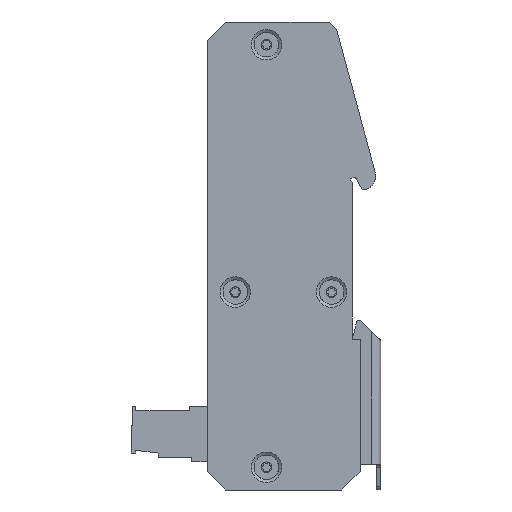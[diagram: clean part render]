
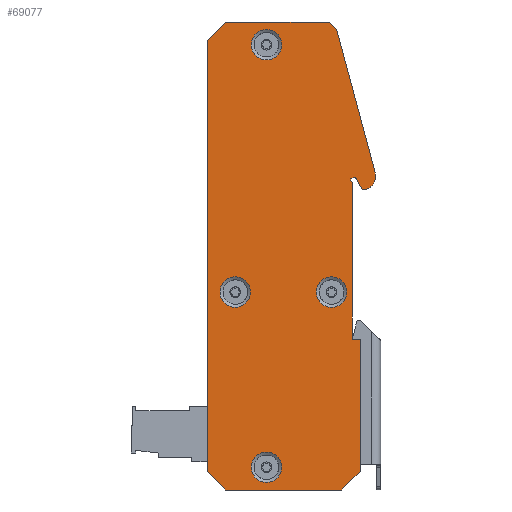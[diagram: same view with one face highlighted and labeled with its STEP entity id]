
A CAD part, left-side view. The second image highlights one B-rep face of the part: STEP entity #69077.
In plain terms, the highlighted planar face has unit normal (-1, 0, 0).
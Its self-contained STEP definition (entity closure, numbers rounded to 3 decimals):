
#68887=CARTESIAN_POINT('',(-29.,0.75,0.));
#68888=DIRECTION('',(-1.,0.,0.));
#68889=DIRECTION('',(-0.,-1.,0.));
#68890=AXIS2_PLACEMENT_3D('',#68887,#68888,#68889);
#68891=PLANE('',#68890);
#68892=CARTESIAN_POINT('',(-29.,4.6,50.825));
#68893=VERTEX_POINT('',#68892);
#68894=CARTESIAN_POINT('',(-29.,4.6,47.4));
#68895=DIRECTION('',(1.,-0.,0.));
#68896=DIRECTION('',(0.,0.,1.));
#68897=AXIS2_PLACEMENT_3D('',#68894,#68895,#68896);
#68898=CIRCLE('',#68897,3.425);
#68899=EDGE_CURVE('',#68893,#68893,#68898,.T.);
#68900=ORIENTED_EDGE('',*,*,#68899,.T.);
#68901=EDGE_LOOP('',(#68900));
#68902=FACE_BOUND('',#68901,.T.);
#68903=CARTESIAN_POINT('',(-29.,-10.,-4.675));
#68904=VERTEX_POINT('',#68903);
#68905=CARTESIAN_POINT('',(-29.,-10.,-8.1));
#68906=DIRECTION('',(1.,-0.,0.));
#68907=DIRECTION('',(0.,0.,1.));
#68908=AXIS2_PLACEMENT_3D('',#68905,#68906,#68907);
#68909=CIRCLE('',#68908,3.425);
#68910=EDGE_CURVE('',#68904,#68904,#68909,.T.);
#68911=ORIENTED_EDGE('',*,*,#68910,.T.);
#68912=EDGE_LOOP('',(#68911));
#68913=FACE_BOUND('',#68912,.T.);
#68914=CARTESIAN_POINT('',(-29.,4.6,-43.975));
#68915=VERTEX_POINT('',#68914);
#68916=CARTESIAN_POINT('',(-29.,4.6,-47.4));
#68917=DIRECTION('',(1.,-0.,0.));
#68918=DIRECTION('',(0.,0.,1.));
#68919=AXIS2_PLACEMENT_3D('',#68916,#68917,#68918);
#68920=CIRCLE('',#68919,3.425);
#68921=EDGE_CURVE('',#68915,#68915,#68920,.T.);
#68922=ORIENTED_EDGE('',*,*,#68921,.T.);
#68923=EDGE_LOOP('',(#68922));
#68924=FACE_BOUND('',#68923,.T.);
#68925=CARTESIAN_POINT('',(-29.,11.6,-4.675));
#68926=VERTEX_POINT('',#68925);
#68927=CARTESIAN_POINT('',(-29.,11.6,-8.1));
#68928=DIRECTION('',(1.,-0.,0.));
#68929=DIRECTION('',(0.,0.,1.));
#68930=AXIS2_PLACEMENT_3D('',#68927,#68928,#68929);
#68931=CIRCLE('',#68930,3.425);
#68932=EDGE_CURVE('',#68926,#68926,#68931,.T.);
#68933=ORIENTED_EDGE('',*,*,#68932,.T.);
#68934=EDGE_LOOP('',(#68933));
#68935=FACE_BOUND('',#68934,.T.);
#68936=CARTESIAN_POINT('',(-29.,-16.4,-48.4));
#68937=VERTEX_POINT('',#68936);
#68938=CARTESIAN_POINT('',(-29.,-16.4,-18.65));
#68939=VERTEX_POINT('',#68938);
#68940=CARTESIAN_POINT('',(-29.,-16.4,-48.4));
#68941=DIRECTION('',(0.,0.,1.));
#68942=VECTOR('',#68941,29.75);
#68943=LINE('',#68940,#68942);
#68944=EDGE_CURVE('',#68937,#68939,#68943,.T.);
#68945=ORIENTED_EDGE('',*,*,#68944,.T.);
#68946=CARTESIAN_POINT('',(-29.,-14.6,-18.65));
#68947=VERTEX_POINT('',#68946);
#68948=CARTESIAN_POINT('',(-29.,-16.4,-18.65));
#68949=DIRECTION('',(0.,1.,-0.));
#68950=VECTOR('',#68949,1.8);
#68951=LINE('',#68948,#68950);
#68952=EDGE_CURVE('',#68939,#68947,#68951,.T.);
#68953=ORIENTED_EDGE('',*,*,#68952,.T.);
#68954=CARTESIAN_POINT('',(-29.,-14.6,16.55));
#68955=VERTEX_POINT('',#68954);
#68956=CARTESIAN_POINT('',(-29.,-14.6,-18.65));
#68957=DIRECTION('',(0.,0.,1.));
#68958=VECTOR('',#68957,35.2);
#68959=LINE('',#68956,#68958);
#68960=EDGE_CURVE('',#68947,#68955,#68959,.T.);
#68961=ORIENTED_EDGE('',*,*,#68960,.T.);
#68962=CARTESIAN_POINT('',(-29.,-14.208,17.287));
#68963=VERTEX_POINT('',#68962);
#68964=CARTESIAN_POINT('',(-29.,-14.6,16.55));
#68965=DIRECTION('',(0.,0.469,0.883));
#68966=VECTOR('',#68965,0.834);
#68967=LINE('',#68964,#68966);
#68968=EDGE_CURVE('',#68955,#68963,#68967,.T.);
#68969=ORIENTED_EDGE('',*,*,#68968,.T.);
#68970=CARTESIAN_POINT('',(-29.,-14.826,17.615));
#68971=VERTEX_POINT('',#68970);
#68972=CARTESIAN_POINT('',(-29.,-14.208,17.287));
#68973=DIRECTION('',(-0.,-0.883,0.469));
#68974=VECTOR('',#68973,0.7);
#68975=LINE('',#68972,#68974);
#68976=EDGE_CURVE('',#68963,#68971,#68975,.T.);
#68977=ORIENTED_EDGE('',*,*,#68976,.T.);
#68978=CARTESIAN_POINT('',(-29.,-15.503,17.409));
#68979=VERTEX_POINT('',#68978);
#68980=CARTESIAN_POINT('',(-29.,-15.061,17.174));
#68981=DIRECTION('',(1.,-0.,0.));
#68982=DIRECTION('',(0.,1.,0.));
#68983=AXIS2_PLACEMENT_3D('',#68980,#68981,#68982);
#68984=CIRCLE('',#68983,0.5);
#68985=EDGE_CURVE('',#68971,#68979,#68984,.T.);
#68986=ORIENTED_EDGE('',*,*,#68985,.T.);
#68987=CARTESIAN_POINT('',(-29.,-16.863,14.85));
#68988=VERTEX_POINT('',#68987);
#68989=CARTESIAN_POINT('',(-29.,-15.503,17.409));
#68990=DIRECTION('',(-0.,-0.469,-0.883));
#68991=VECTOR('',#68990,2.897);
#68992=LINE('',#68989,#68991);
#68993=EDGE_CURVE('',#68979,#68988,#68992,.T.);
#68994=ORIENTED_EDGE('',*,*,#68993,.T.);
#68995=CARTESIAN_POINT('',(-29.,-16.9,14.85));
#68996=VERTEX_POINT('',#68995);
#68997=CARTESIAN_POINT('',(-29.,-16.9,17.85));
#68998=DIRECTION('',(-1.,0.,0.));
#68999=DIRECTION('',(0.,1.,0.));
#69000=AXIS2_PLACEMENT_3D('',#68997,#68998,#68999);
#69001=CIRCLE('',#69000,3.);
#69002=EDGE_CURVE('',#68988,#68996,#69001,.T.);
#69003=ORIENTED_EDGE('',*,*,#69002,.T.);
#69004=CARTESIAN_POINT('',(-29.,-19.797,18.628));
#69005=VERTEX_POINT('',#69004);
#69006=CARTESIAN_POINT('',(-29.,-16.9,17.85));
#69007=DIRECTION('',(-1.,0.,0.));
#69008=DIRECTION('',(0.,1.,0.));
#69009=AXIS2_PLACEMENT_3D('',#69006,#69007,#69008);
#69010=CIRCLE('',#69009,3.);
#69011=EDGE_CURVE('',#68996,#69005,#69010,.T.);
#69012=ORIENTED_EDGE('',*,*,#69011,.T.);
#69013=CARTESIAN_POINT('',(-29.,-11.141,50.859));
#69014=VERTEX_POINT('',#69013);
#69015=CARTESIAN_POINT('',(-29.,-19.797,18.628));
#69016=DIRECTION('',(0.,0.259,0.966));
#69017=VECTOR('',#69016,33.373);
#69018=LINE('',#69015,#69017);
#69019=EDGE_CURVE('',#69005,#69014,#69018,.T.);
#69020=ORIENTED_EDGE('',*,*,#69019,.T.);
#69021=CARTESIAN_POINT('',(-29.,-9.5,52.5));
#69022=VERTEX_POINT('',#69021);
#69023=CARTESIAN_POINT('',(-29.,-11.141,50.859));
#69024=DIRECTION('',(0.,0.707,0.707));
#69025=VECTOR('',#69024,2.32);
#69026=LINE('',#69023,#69025);
#69027=EDGE_CURVE('',#69014,#69022,#69026,.T.);
#69028=ORIENTED_EDGE('',*,*,#69027,.T.);
#69029=CARTESIAN_POINT('',(-29.,13.8,52.5));
#69030=VERTEX_POINT('',#69029);
#69031=CARTESIAN_POINT('',(-29.,-9.5,52.5));
#69032=DIRECTION('',(0.,1.,0.));
#69033=VECTOR('',#69032,23.3);
#69034=LINE('',#69031,#69033);
#69035=EDGE_CURVE('',#69022,#69030,#69034,.T.);
#69036=ORIENTED_EDGE('',*,*,#69035,.T.);
#69037=CARTESIAN_POINT('',(-29.,17.9,48.4));
#69038=VERTEX_POINT('',#69037);
#69039=CARTESIAN_POINT('',(-29.,13.8,52.5));
#69040=DIRECTION('',(0.,0.707,-0.707));
#69041=VECTOR('',#69040,5.798);
#69042=LINE('',#69039,#69041);
#69043=EDGE_CURVE('',#69030,#69038,#69042,.T.);
#69044=ORIENTED_EDGE('',*,*,#69043,.T.);
#69045=CARTESIAN_POINT('',(-29.,17.9,-48.4));
#69046=VERTEX_POINT('',#69045);
#69047=CARTESIAN_POINT('',(-29.,17.9,48.4));
#69048=DIRECTION('',(0.,0.,-1.));
#69049=VECTOR('',#69048,96.8);
#69050=LINE('',#69047,#69049);
#69051=EDGE_CURVE('',#69038,#69046,#69050,.T.);
#69052=ORIENTED_EDGE('',*,*,#69051,.T.);
#69053=CARTESIAN_POINT('',(-29.,13.8,-52.5));
#69054=VERTEX_POINT('',#69053);
#69055=CARTESIAN_POINT('',(-29.,17.9,-48.4));
#69056=DIRECTION('',(-0.,-0.707,-0.707));
#69057=VECTOR('',#69056,5.798);
#69058=LINE('',#69055,#69057);
#69059=EDGE_CURVE('',#69046,#69054,#69058,.T.);
#69060=ORIENTED_EDGE('',*,*,#69059,.T.);
#69061=CARTESIAN_POINT('',(-29.,-12.3,-52.5));
#69062=VERTEX_POINT('',#69061);
#69063=CARTESIAN_POINT('',(-29.,13.8,-52.5));
#69064=DIRECTION('',(-0.,-1.,0.));
#69065=VECTOR('',#69064,26.1);
#69066=LINE('',#69063,#69065);
#69067=EDGE_CURVE('',#69054,#69062,#69066,.T.);
#69068=ORIENTED_EDGE('',*,*,#69067,.T.);
#69069=CARTESIAN_POINT('',(-29.,-12.3,-52.5));
#69070=DIRECTION('',(-0.,-0.707,0.707));
#69071=VECTOR('',#69070,5.798);
#69072=LINE('',#69069,#69071);
#69073=EDGE_CURVE('',#69062,#68937,#69072,.T.);
#69074=ORIENTED_EDGE('',*,*,#69073,.T.);
#69075=EDGE_LOOP('',(#68945,#68953,#68961,#68969,#68977,#68986,#68994,#69003,#69012,#69020,#69028,#69036,#69044,#69052,#69060,#69068,#69074));
#69076=FACE_BOUND('',#69075,.T.);
#69077=ADVANCED_FACE('',(#68902,#68913,#68924,#68935,#69076),#68891,.T.);
